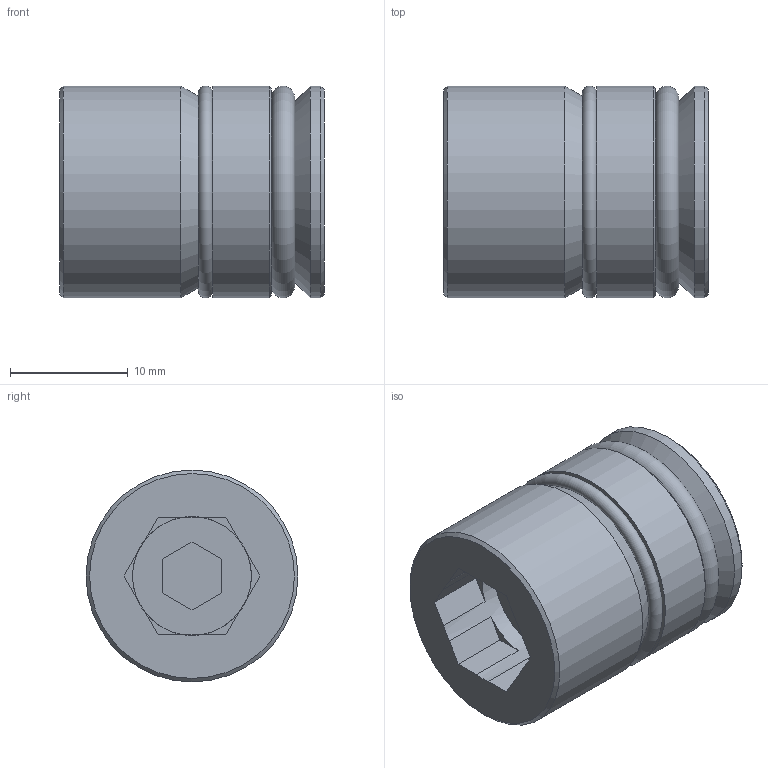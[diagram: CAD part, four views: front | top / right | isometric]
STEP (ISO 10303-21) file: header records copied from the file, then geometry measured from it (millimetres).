
FILE_DESCRIPTION( ( 'STEP AP214' ), '1' );
FILE_NAME( 'p:/temp/worker_239/temp/exporttempdir_2328_656_wOjDe/format_0/TRI-18.stp', '2021-02-05T19:29:19', ( 'License CC BY-ND 4.0' ), ( 'CADENAS' ), ' ', 'PARTsolutions', ' ' );
FILE_SCHEMA( ( 'AUTOMOTIVE_DESIGN { 1 0 10303 214 1 1 1 1 }' ) );
Length unit declared in the file: millimetre
Products named in the file (1): _TRI-18
Bounding box: 22.5 x 18 x 18 mm (x, y, z)
Volume: 4886.9 mm3; surface area: 2367.5 mm2
Topology: 1 solids, 1 shells, 41 faces, 98 edges, 63 vertices
Faces by surface type: plane 30, cone 5, cylinder 4, torus 2
Full cylindrical faces by diameter (mm): 10.1 x1, 18 x3
Entity records: 1470 total; most frequent: DIRECTION 196, CARTESIAN_POINT 192, ORIENTED_EDGE 172, EDGE_CURVE 86, AXIS2_PLACEMENT_3D 68, VERTEX_POINT 64, LINE 60, VECTOR 60
